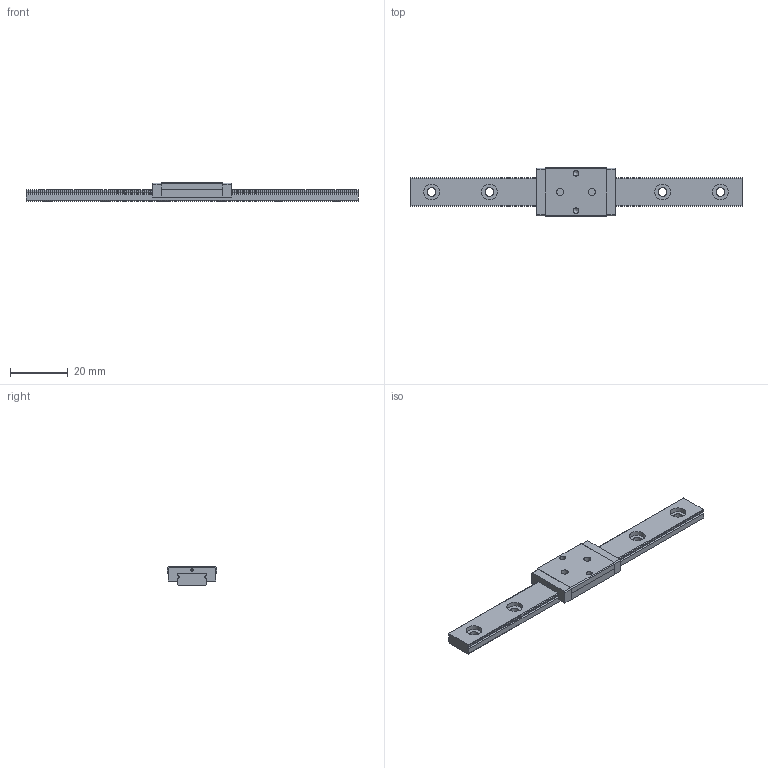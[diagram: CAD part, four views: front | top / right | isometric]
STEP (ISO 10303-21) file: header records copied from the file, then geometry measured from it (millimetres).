
FILE_DESCRIPTION((''),'2;1');
FILE_NAME('C:\Documents and Settings\土屋\My Documents\土屋移動用フォルダ\製品 (図面)\カタログ用3D\リニアガイド\EGM-WL\EGM5WL.stp','2015-02-21T13:17:37',('y'),(''),'Autodesk Inventor 11','Autodesk Inventor 11','');
FILE_SCHEMA(('AUTOMOTIVE_DESIGN { 1 0 10303 214 1 1 1 1 }'));
Length unit declared in the file: millimetre
Products named in the file (3): EGM5WL; EGM5WLレール; EGM5WLベアリング
Assembly tree (2 placements, depth 2):
  EGM5WL
    EGM5WLレール
    EGM5WLベアリング
Bounding box: 115 x 17 x 6.5 mm (x, y, z)
Volume: 5705.4 mm3; surface area: 5117.1 mm2
Topology: 2 solids, 2 shells, 84 faces, 216 edges, 144 vertices
Faces by surface type: plane 41, bspline 26, cylinder 17
Full cylindrical faces by diameter (mm): 0.9 x1
Entity records: 2787 total; most frequent: CARTESIAN_POINT 765, DIRECTION 386, ORIENTED_EDGE 384, EDGE_CURVE 192, VERTEX_POINT 140, AXIS2_PLACEMENT_3D 131, EDGE_LOOP 128, VECTOR 124
